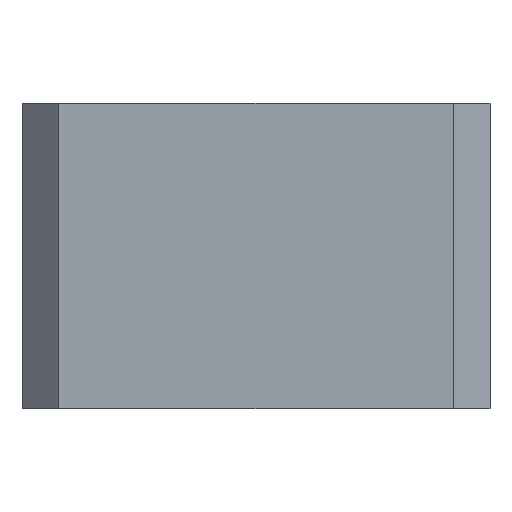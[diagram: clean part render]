
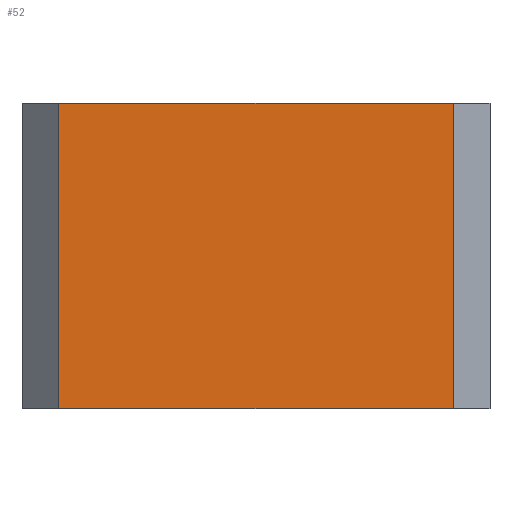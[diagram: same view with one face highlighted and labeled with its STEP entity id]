
A CAD part, left-side view. The second image highlights one B-rep face of the part: STEP entity #52.
In plain terms, the highlighted planar face has unit normal (-1, 0, 0).
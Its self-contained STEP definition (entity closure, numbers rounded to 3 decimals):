
#1 = CARTESIAN_POINT ( 'NONE',  ( -22.056, -25.948, 38. ) ) ;
#20 = LINE ( 'NONE', #637, #608 ) ;
#52 = ADVANCED_FACE ( 'NONE', ( #662 ), #222, .F. ) ;
#63 = VECTOR ( 'NONE', #674, 1000. ) ;
#73 = CARTESIAN_POINT ( 'NONE',  ( -22.056, -25.948, 38. ) ) ;
#95 = EDGE_CURVE ( 'NONE', #725, #717, #216, .T. ) ;
#163 = LINE ( 'NONE', #527, #880 ) ;
#201 = ORIENTED_EDGE ( 'NONE', *, *, #95, .F. ) ;
#207 = DIRECTION ( 'NONE',  ( 1., 0., 0. ) ) ;
#215 = DIRECTION ( 'NONE',  ( 0., 0., -1. ) ) ;
#216 = LINE ( 'NONE', #73, #63 ) ;
#217 = CARTESIAN_POINT ( 'NONE',  ( -22.056, -25.948, 38. ) ) ;
#219 = VERTEX_POINT ( 'NONE', #907 ) ;
#222 = PLANE ( 'NONE',  #832 ) ;
#250 = DIRECTION ( 'NONE',  ( 0., 0., -1. ) ) ;
#292 = DIRECTION ( 'NONE',  ( 0., -1., 0. ) ) ;
#416 = EDGE_CURVE ( 'NONE', #219, #893, #163, .T. ) ;
#478 = VECTOR ( 'NONE', #250, 1000. ) ;
#485 = EDGE_CURVE ( 'NONE', #717, #893, #851, .T. ) ;
#487 = EDGE_LOOP ( 'NONE', ( #595, #859, #201, #583 ) ) ;
#527 = CARTESIAN_POINT ( 'NONE',  ( -22.056, -25.948, 0. ) ) ;
#537 = CARTESIAN_POINT ( 'NONE',  ( -22.056, 23.084, 38. ) ) ;
#554 = EDGE_CURVE ( 'NONE', #725, #219, #20, .T. ) ;
#583 = ORIENTED_EDGE ( 'NONE', *, *, #554, .T. ) ;
#595 = ORIENTED_EDGE ( 'NONE', *, *, #416, .T. ) ;
#608 = VECTOR ( 'NONE', #646, 1000. ) ;
#637 = CARTESIAN_POINT ( 'NONE',  ( -22.056, 23.084, 38. ) ) ;
#646 = DIRECTION ( 'NONE',  ( 0., 0., -1. ) ) ;
#662 = FACE_OUTER_BOUND ( 'NONE', #487, .T. ) ;
#674 = DIRECTION ( 'NONE',  ( 0., -1., 0. ) ) ;
#717 = VERTEX_POINT ( 'NONE', #803 ) ;
#725 = VERTEX_POINT ( 'NONE', #537 ) ;
#799 = CARTESIAN_POINT ( 'NONE',  ( -22.056, -25.948, 0. ) ) ;
#803 = CARTESIAN_POINT ( 'NONE',  ( -22.056, -25.948, 38. ) ) ;
#832 = AXIS2_PLACEMENT_3D ( 'NONE', #217, #207, #215 ) ;
#851 = LINE ( 'NONE', #1, #478 ) ;
#859 = ORIENTED_EDGE ( 'NONE', *, *, #485, .F. ) ;
#880 = VECTOR ( 'NONE', #292, 1000. ) ;
#893 = VERTEX_POINT ( 'NONE', #799 ) ;
#907 = CARTESIAN_POINT ( 'NONE',  ( -22.056, 23.084, 0. ) ) ;
